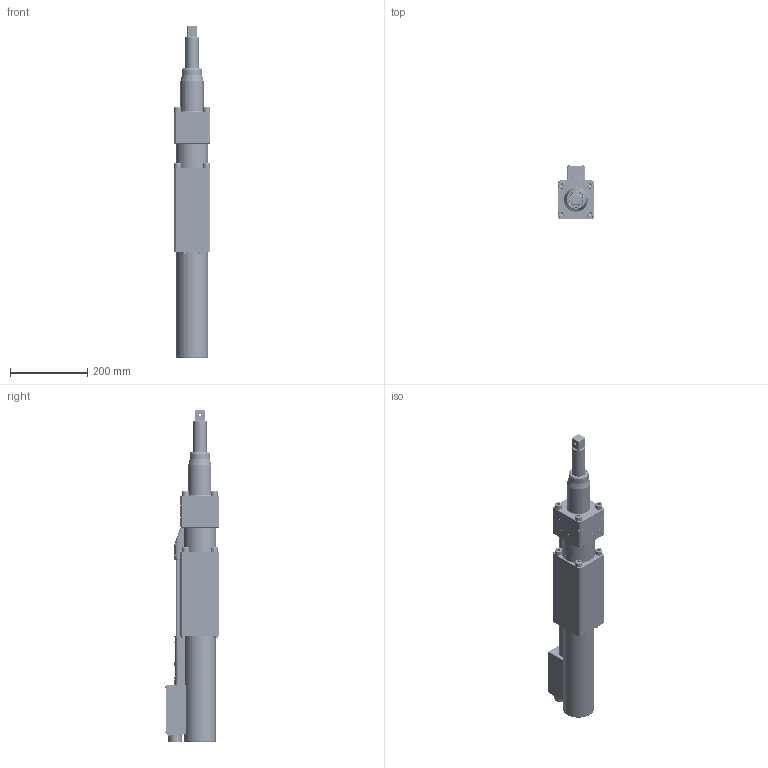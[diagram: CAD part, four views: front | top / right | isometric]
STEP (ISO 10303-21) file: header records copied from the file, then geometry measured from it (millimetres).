
FILE_DESCRIPTION (( 'STEP AP214' ), '1' );
FILE_NAME ('1000禳踡粣.STEP', '2025-09-30T06:33:02', ( '' ), ( '' ), 'SwSTEP 2.0', 'SolidWorks 2021', '' );
FILE_SCHEMA (( 'AUTOMOTIVE_DESIGN' ));
Length unit declared in the file: millimetre
Products named in the file (44): 禳踡粣萇繚啣; GB276粣創6910_Rolling bearings 61910 GB 276-94; 揤盄え; 揤銅YB 1.5X13.5X400_雄怓; GB70.1蹟邡M3X20_GB_FASTENER_SCREWS_HSHCS M3X20-N; 盄奪諉芛B; 1000換覜ん; GB120.2埴翐种8X26_GB_PARALLEL_PINS_TYPE5 8X26-A-N; GK6A03H-8AF61-FE-YZ萇儂; 1000換覜ん誘欶(撥揤); 1000禳踡粣; TLA4516Z粣創; GB70.1蹟邡M4X16_GB_FASTENER_SCREWS_HSHCS M4X16-N; GB70.1蹟邡M12X40_GB_FASTENER_SCREWS_HSHCS M12X40-S; 1000換覜ん誘欶(撥揤)_B; 囀豪瑩粣; O型圈72X3.5_GB-T 3452.1 67x3.55-A; 團蚐遠; 750諉芛揤啣; 750諷秶碟(鍼踢); 1000換覜ん誘欶(撥揤)_A; TAS21-50毀砃粣縐; GB70.1蹟邡M12X80_GB_FASTENER_SCREWS_HSHCS M12X60-N; 蚐猾SD35X42X4; GB818蹟隊M3X8_GB_CROSS_SCREWS_TYPE1 M3X8-8  H type-N; 樓酗輸; TKZ120熬厒儂; 10X20す邳埴奪; WF32J19Z鼠釱; 扥坫粣; 躇猾菜; 諷秶碟裔; 刮油挡圈; 1000扥坫窒郪; 嘐隅粣杶; GB818蹟隊M3X6_GB_CROSS_SCREWS_TYPE1 M3X8-8  H type-N; 揤銅絳砃种; GB70.1蹟邡M3X12_GB_FASTENER_SCREWS_HSHCS M3X12-N; 盄奪諉芛A; TAS41-52毀砃謂縐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
Assembly tree (74 placements, depth 4):
  1000禳踡粣
    1000扥坫窒郪
      TKZ120熬厒儂
      1000換覜ん
      囀豪瑩粣
      扥坫粣
      嘐隅粣杶
      躇猾菜  x2
      賑藻え  x2
      揤銅絳砃种
      團蚐遠
      揤銅YB 1.5X13.5X400_雄怓  x2
      蚐猾SD35X42X4
      TLA4516Z粣創
      TLA3520Z粣創
      O型圈72X3.5_GB-T 3452.1 67x3.55-A
      TAS41-52毀砃謂縐
      GB70.1蹟邡M12X80_GB_FASTENER_SCREWS_HSHCS M12X60-N  x4
      GB70.1蹟邡M4X16_GB_FASTENER_SCREWS_HSHCS M4X16-N  x6
      GB120.2埴翐种8X26_GB_PARALLEL_PINS_TYPE5 8X26-A-N  x4
      O型圈80X3.5_GB-T 3452.1 67x3.55-A
      揤盄え
      TAS21-50毀砃粣縐
      GB276粣創6910_Rolling bearings 61910 GB 276-94
      GB70.1蹟邡M12X40_GB_FASTENER_SCREWS_HSHCS M12X40-S  x4
      樓酗輸
      刮油挡圈
      盄奪諉芛A
      GB70.1蹟邡M3X12_GB_FASTENER_SCREWS_HSHCS M3X12-N  x2
      GB70.1蹟邡M3X20_GB_FASTENER_SCREWS_HSHCS M3X20-N  x2
      10X20す邳埴奪
      1000換覜ん誘欶(撥揤)
        1000換覜ん誘欶(撥揤)_A
        1000換覜ん誘欶(撥揤)_B
    GK6A03H-8AF61-FE-YZ萇儂
    750諷秶碟(鍼踢)
    750諉芛揤啣
    諷秶碟裔
    盄奪諉芛B
    WF32J19Z鼠釱
    GB818蹟隊M3X8_GB_CROSS_SCREWS_TYPE1 M3X8-8  H type-N  x4
    GB818蹟隊M3X6_GB_CROSS_SCREWS_TYPE1 M3X8-8  H type-N  x8
    GB70.1蹟邡M3X25_GB_FASTENER_SCREWS_HSHCS M3X25-N  x2
    禳踡粣萇繚啣  x2
Bounding box: 92 x 140.35 x 857.5 mm (x, y, z)
Volume: 4697730.6 mm3; surface area: 794225 mm2
Topology: 161 solids, 165 shells, 5803 faces, 15276 edges, 9697 vertices
Faces by surface type: plane 2606, cylinder 1638, torus 625, cone 369, bspline 327, sphere 238
Entity records: 237098 total; most frequent: CARTESIAN_POINT 78512, ORIENTED_EDGE 26574, DIRECTION 26541, EDGE_CURVE 13287, AXIS2_PLACEMENT_3D 9876, VERTEX_POINT 8517, LINE 6789, VECTOR 6789
